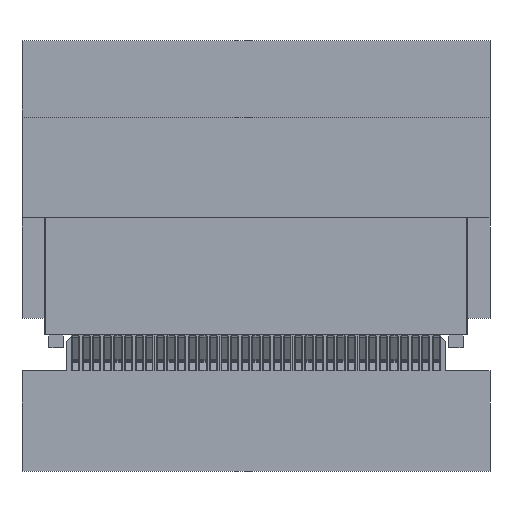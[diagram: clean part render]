
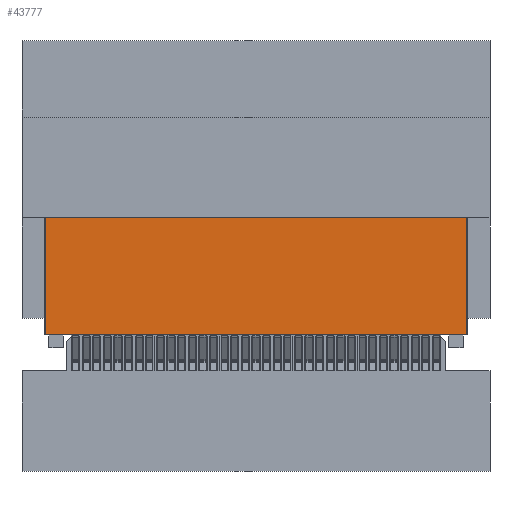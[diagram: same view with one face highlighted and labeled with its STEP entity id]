
A CAD part, front view. The second image highlights one B-rep face of the part: STEP entity #43777.
In plain terms, the highlighted planar face has unit normal (0, -1, 0).
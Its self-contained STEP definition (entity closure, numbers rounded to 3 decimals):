
#17937 = VERTEX_POINT('',#17938);
#17938 = CARTESIAN_POINT('',(-25.175,-4.44,-14.));
#17946 = CYLINDRICAL_SURFACE('',#17947,0.1);
#17947 = AXIS2_PLACEMENT_3D('',#17948,#17949,#17950);
#17948 = CARTESIAN_POINT('',(-25.175,-4.34,0.));
#17949 = DIRECTION('',(0.,0.,-1.));
#17950 = DIRECTION('',(-0.707,-0.707,-0.));
#17958 = PLANE('',#17959);
#17959 = AXIS2_PLACEMENT_3D('',#17960,#17961,#17962);
#17960 = CARTESIAN_POINT('',(0.,0.,-14.));
#17961 = DIRECTION('',(0.,0.,-1.));
#17962 = DIRECTION('',(-1.,0.,0.));
#17974 = EDGE_CURVE('',#17937,#17975,#17977,.T.);
#17975 = VERTEX_POINT('',#17976);
#17976 = CARTESIAN_POINT('',(-25.175,-4.44,0.));
#17977 = SURFACE_CURVE('',#17978,(#17982,#17989),.PCURVE_S1.);
#17978 = LINE('',#17979,#17980);
#17979 = CARTESIAN_POINT('',(-25.175,-4.44,0.));
#17980 = VECTOR('',#17981,1.);
#17981 = DIRECTION('',(0.,0.,1.));
#17982 = PCURVE('',#17946,#17983);
#17983 = DEFINITIONAL_REPRESENTATION('',(#17984),#17988);
#17984 = LINE('',#17985,#17986);
#17985 = CARTESIAN_POINT('',(-0.785,0.));
#17986 = VECTOR('',#17987,1.);
#17987 = DIRECTION('',(0.,-1.));
#17988 = ( GEOMETRIC_REPRESENTATION_CONTEXT(2) 
PARAMETRIC_REPRESENTATION_CONTEXT() REPRESENTATION_CONTEXT('2D SPACE',''
  ) );
#17989 = PCURVE('',#17990,#17995);
#17990 = PLANE('',#17991);
#17991 = AXIS2_PLACEMENT_3D('',#17992,#17993,#17994);
#17992 = CARTESIAN_POINT('',(25.275,-4.44,0.));
#17993 = DIRECTION('',(0.,-1.,0.));
#17994 = DIRECTION('',(-1.,0.,0.));
#17995 = DEFINITIONAL_REPRESENTATION('',(#17996),#18000);
#17996 = LINE('',#17997,#17998);
#17997 = CARTESIAN_POINT('',(50.45,0.));
#17998 = VECTOR('',#17999,1.);
#17999 = DIRECTION('',(0.,-1.));
#18000 = ( GEOMETRIC_REPRESENTATION_CONTEXT(2) 
PARAMETRIC_REPRESENTATION_CONTEXT() REPRESENTATION_CONTEXT('2D SPACE',''
  ) );
#18019 = PLANE('',#18020);
#18020 = AXIS2_PLACEMENT_3D('',#18021,#18022,#18023);
#18021 = CARTESIAN_POINT('',(0.,0.,0.));
#18022 = DIRECTION('',(0.,0.,1.));
#18023 = DIRECTION('',(1.,0.,-0.));
#18248 = EDGE_CURVE('',#18249,#17975,#18251,.T.);
#18249 = VERTEX_POINT('',#18250);
#18250 = CARTESIAN_POINT('',(25.175,-4.44,0.));
#18251 = SURFACE_CURVE('',#18252,(#18256,#18263),.PCURVE_S1.);
#18252 = LINE('',#18253,#18254);
#18253 = CARTESIAN_POINT('',(25.275,-4.44,0.));
#18254 = VECTOR('',#18255,1.);
#18255 = DIRECTION('',(-1.,0.,0.));
#18256 = PCURVE('',#18019,#18257);
#18257 = DEFINITIONAL_REPRESENTATION('',(#18258),#18262);
#18258 = LINE('',#18259,#18260);
#18259 = CARTESIAN_POINT('',(25.275,-4.44));
#18260 = VECTOR('',#18261,1.);
#18261 = DIRECTION('',(-1.,0.));
#18262 = ( GEOMETRIC_REPRESENTATION_CONTEXT(2) 
PARAMETRIC_REPRESENTATION_CONTEXT() REPRESENTATION_CONTEXT('2D SPACE',''
  ) );
#18263 = PCURVE('',#17990,#18264);
#18264 = DEFINITIONAL_REPRESENTATION('',(#18265),#18269);
#18265 = LINE('',#18266,#18267);
#18266 = CARTESIAN_POINT('',(0.,-0.));
#18267 = VECTOR('',#18268,1.);
#18268 = DIRECTION('',(1.,0.));
#18269 = ( GEOMETRIC_REPRESENTATION_CONTEXT(2) 
PARAMETRIC_REPRESENTATION_CONTEXT() REPRESENTATION_CONTEXT('2D SPACE',''
  ) );
#18292 = CYLINDRICAL_SURFACE('',#18293,0.1);
#18293 = AXIS2_PLACEMENT_3D('',#18294,#18295,#18296);
#18294 = CARTESIAN_POINT('',(25.175,-4.34,0.));
#18295 = DIRECTION('',(0.,0.,-1.));
#18296 = DIRECTION('',(0.707,-0.707,0.));
#26850 = VERTEX_POINT('',#26851);
#26851 = CARTESIAN_POINT('',(25.175,-4.44,-14.));
#26901 = EDGE_CURVE('',#18249,#26850,#26902,.T.);
#26902 = SURFACE_CURVE('',#26903,(#26907,#26914),.PCURVE_S1.);
#26903 = LINE('',#26904,#26905);
#26904 = CARTESIAN_POINT('',(25.175,-4.44,0.));
#26905 = VECTOR('',#26906,1.);
#26906 = DIRECTION('',(0.,0.,-1.));
#26907 = PCURVE('',#18292,#26908);
#26908 = DEFINITIONAL_REPRESENTATION('',(#26909),#26913);
#26909 = LINE('',#26910,#26911);
#26910 = CARTESIAN_POINT('',(7.069,0.));
#26911 = VECTOR('',#26912,1.);
#26912 = DIRECTION('',(0.,1.));
#26913 = ( GEOMETRIC_REPRESENTATION_CONTEXT(2) 
PARAMETRIC_REPRESENTATION_CONTEXT() REPRESENTATION_CONTEXT('2D SPACE',''
  ) );
#26914 = PCURVE('',#17990,#26915);
#26915 = DEFINITIONAL_REPRESENTATION('',(#26916),#26920);
#26916 = LINE('',#26917,#26918);
#26917 = CARTESIAN_POINT('',(0.1,0.));
#26918 = VECTOR('',#26919,1.);
#26919 = DIRECTION('',(0.,1.));
#26920 = ( GEOMETRIC_REPRESENTATION_CONTEXT(2) 
PARAMETRIC_REPRESENTATION_CONTEXT() REPRESENTATION_CONTEXT('2D SPACE',''
  ) );
#42541 = EDGE_CURVE('',#26850,#17937,#42542,.T.);
#42542 = SURFACE_CURVE('',#42543,(#42547,#42554),.PCURVE_S1.);
#42543 = LINE('',#42544,#42545);
#42544 = CARTESIAN_POINT('',(25.275,-4.44,-14.));
#42545 = VECTOR('',#42546,1.);
#42546 = DIRECTION('',(-1.,0.,0.));
#42547 = PCURVE('',#17958,#42548);
#42548 = DEFINITIONAL_REPRESENTATION('',(#42549),#42553);
#42549 = LINE('',#42550,#42551);
#42550 = CARTESIAN_POINT('',(-25.275,-4.44));
#42551 = VECTOR('',#42552,1.);
#42552 = DIRECTION('',(1.,0.));
#42553 = ( GEOMETRIC_REPRESENTATION_CONTEXT(2) 
PARAMETRIC_REPRESENTATION_CONTEXT() REPRESENTATION_CONTEXT('2D SPACE',''
  ) );
#42554 = PCURVE('',#17990,#42555);
#42555 = DEFINITIONAL_REPRESENTATION('',(#42556),#42560);
#42556 = LINE('',#42557,#42558);
#42557 = CARTESIAN_POINT('',(0.,14.));
#42558 = VECTOR('',#42559,1.);
#42559 = DIRECTION('',(1.,0.));
#42560 = ( GEOMETRIC_REPRESENTATION_CONTEXT(2) 
PARAMETRIC_REPRESENTATION_CONTEXT() REPRESENTATION_CONTEXT('2D SPACE',''
  ) );
#43777 = ADVANCED_FACE('',(#43778),#17990,.T.);
#43778 = FACE_BOUND('',#43779,.T.);
#43779 = EDGE_LOOP('',(#43780,#43781,#43782,#43783));
#43780 = ORIENTED_EDGE('',*,*,#17974,.F.);
#43781 = ORIENTED_EDGE('',*,*,#42541,.F.);
#43782 = ORIENTED_EDGE('',*,*,#26901,.F.);
#43783 = ORIENTED_EDGE('',*,*,#18248,.T.);
